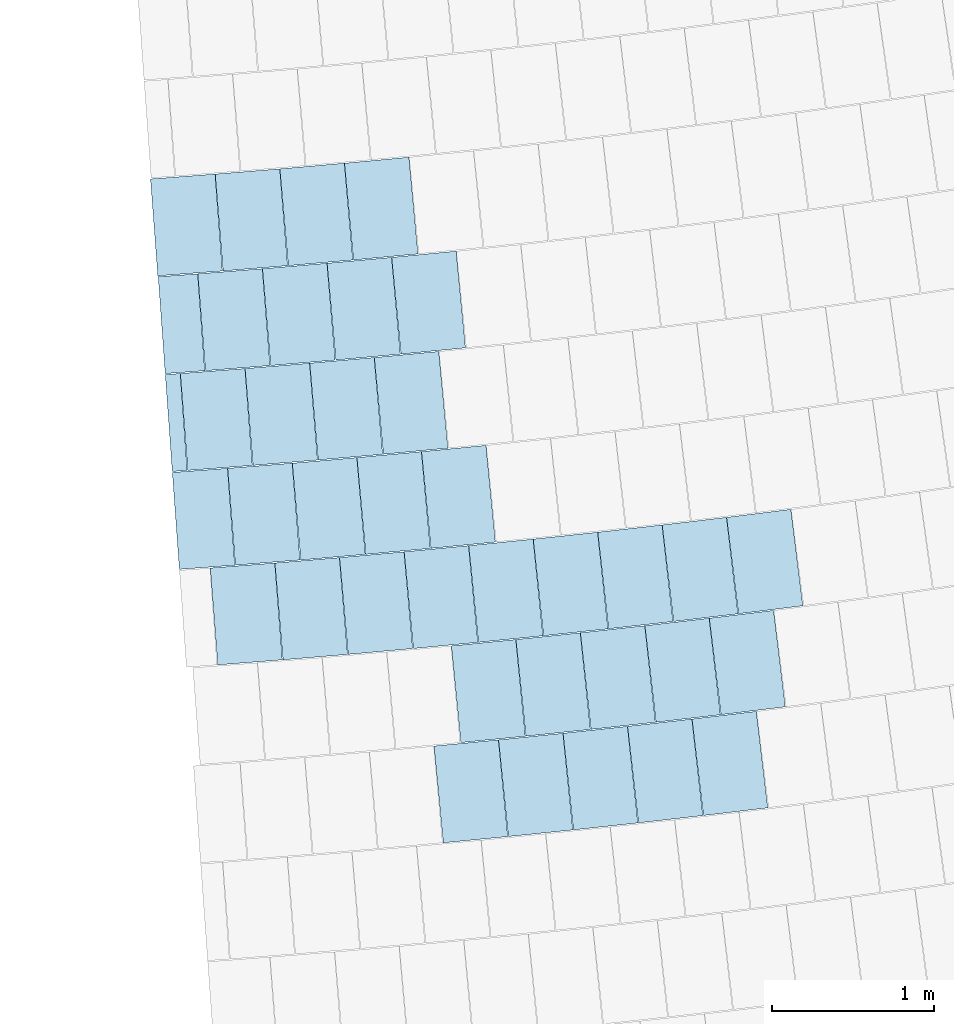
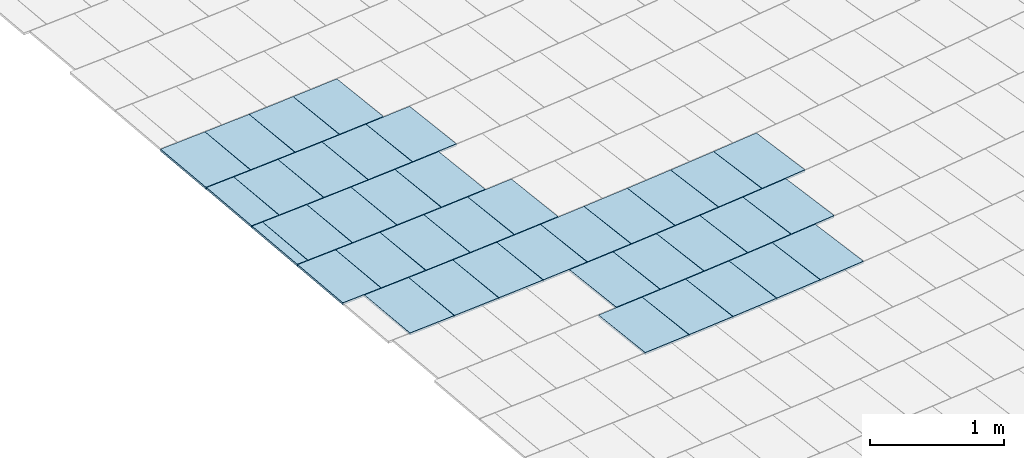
# One storey, part 40 of 438: 38 slabs.
"""IFC2X3 building model written with IfcOpenShell, lengths in millimetres."""

import ifcopenshell
import ifcopenshell.guid

model = None  # the IFC model being written
_history = None  # IfcOwnerHistory: only IFC2X3 demands one
_inside = {}  # id of a spatial element -> (the spatial element, [elements in it])
_under = {}  # id of a project, library or spatial element -> (it, [spatial elements below it])
_declared = {}  # id of a project -> (the project, [libraries it declares])
_typed = {}  # id of a type object -> (the type object, [elements of that type])
_made_of = {}  # id of a material, layer set ... -> (it, [elements and type objects made of it])


def new_model(schema):
    """Start an empty IFC model of exactly this schema.

    Asked for "IFC4X3", IfcOpenShell would pick the latest addendum, in which some entities
    have other attributes; the version numbers below select the first issue.
    IFC2X3 requires an IfcOwnerHistory on every rooted entity: one is made here for all.
    """
    global model, _history
    if schema == "IFC4X3":
        model = ifcopenshell.file(schema_version=(4, 3, 0, 0))
    else:
        model = ifcopenshell.file(schema=schema)
    _inside.clear()
    _under.clear()
    _declared.clear()
    _typed.clear()
    _made_of.clear()
    _history = None
    if model.schema == "IFC2X3":
        org = make("IfcOrganization", Name="unknown")
        user = make(
            "IfcPersonAndOrganization",
            ThePerson=make("IfcPerson", FamilyName="unknown"),
            TheOrganization=org,
        )
        app = make(
            "IfcApplication",
            ApplicationDeveloper=org,
            Version="unknown",
            ApplicationFullName="unknown",
            ApplicationIdentifier="unknown",
        )
        _history = make(
            "IfcOwnerHistory",
            OwningUser=user,
            OwningApplication=app,
            ChangeAction="ADDED",
            CreationDate=0,
        )
    return model


def make(cls, **values):
    """One entity of the class cls with the attributes given. An attribute that is None is left unset."""
    return model.create_entity(
        cls, **{name: value for name, value in values.items() if value is not None}
    )


def entity(cls, *values):
    """Any entity or typed value of the class cls, its attributes in the order of the schema. None: left unset."""
    e = model.create_entity(cls)
    for i, value in enumerate(values):
        if value is not None:
            e[i] = value
    return e


def rooted(cls, **values):
    """An entity with a GlobalId (a new one), such as an element, a storey or a relation."""
    return make(cls, GlobalId=ifcopenshell.guid.new(), OwnerHistory=_history, **values)


def si_unit(unit_type, name, prefix=None):
    """IfcSIUnit, for example si_unit("LENGTHUNIT", "METRE", prefix="MILLI")."""
    return make("IfcSIUnit", UnitType=unit_type, Prefix=prefix, Name=name)


def converted_unit(unit_type, name, factor, base, dimensions=None, offset=None):
    """IfcConversionBasedUnit, such as the inch: factor (a typed value) times the base unit."""
    return make(
        "IfcConversionBasedUnit"
        if offset is None
        else "IfcConversionBasedUnitWithOffset",
        ConversionOffset=offset,
        Dimensions=None
        if dimensions is None
        else entity("IfcDimensionalExponents", *dimensions),
        UnitType=unit_type,
        Name=name,
        ConversionFactor=make(
            "IfcMeasureWithUnit", ValueComponent=factor, UnitComponent=base
        ),
    )


def derived_unit(unit_type, elements):
    """IfcDerivedUnit: a product of units, each with its exponent."""
    return make(
        "IfcDerivedUnit",
        Elements=[
            make("IfcDerivedUnitElement", Unit=unit, Exponent=power)
            for unit, power in elements
        ],
        UnitType=unit_type,
    )


def assignment(units):
    """IfcUnitAssignment: the units of a project."""
    return None if units is None else make("IfcUnitAssignment", Units=units)


def point(xyz):
    """IfcCartesianPoint."""
    return None if xyz is None else make("IfcCartesianPoint", Coordinates=xyz)


def direction(xyz):
    """IfcDirection."""
    return None if xyz is None else make("IfcDirection", DirectionRatios=xyz)


def frame(location, z_axis=None, x_axis=None):
    """IfcAxis2Placement3D, a coordinate frame: its origin and axes. An axis left out is left unset."""
    return make(
        "IfcAxis2Placement3D",
        Location=point(location),
        Axis=direction(z_axis),
        RefDirection=direction(x_axis),
    )


def frame_2d(location, x_axis=None):
    """IfcAxis2Placement2D, a coordinate frame in the plane: its origin and x axis."""
    return make(
        "IfcAxis2Placement2D", Location=point(location), RefDirection=direction(x_axis)
    )


def origin():
    """The frame at (0, 0, 0) with its axes left unset."""
    return frame((0.0, 0.0, 0.0))


def origin_2d_with_axis():
    """The frame at (0, 0) in the plane with the x axis (1, 0) written out."""
    return frame_2d((0.0, 0.0), x_axis=(1.0, 0.0))


def place(relative_to, where):
    """IfcLocalPlacement: puts the frame where relative to a parent placement (None: the world)."""
    return make(
        "IfcLocalPlacement", PlacementRelTo=relative_to, RelativePlacement=where
    )


def context(
    kind, dimensions, precision=None, world=None, true_north=None, identifier=None
):
    """IfcGeometricRepresentationContext, for example the 3D "Model" context."""
    return make(
        "IfcGeometricRepresentationContext",
        ContextIdentifier=identifier,
        ContextType=kind,
        CoordinateSpaceDimension=dimensions,
        Precision=precision,
        WorldCoordinateSystem=world,
        TrueNorth=true_north,
    )


def subcontext(parent, identifier, kind, view, scale=None):
    """IfcGeometricRepresentationSubContext, for example "Body" below "Model"."""
    return make(
        "IfcGeometricRepresentationSubContext",
        ContextIdentifier=identifier,
        ContextType=kind,
        ParentContext=parent,
        TargetScale=scale,
        TargetView=view,
    )


def project(units=None, contexts=None):
    """IfcProject with its units and contexts."""
    return rooted(
        "IfcProject",
        Name="project",
        RepresentationContexts=contexts,
        UnitsInContext=assignment(units),
    )


def spatial(cls, under=None, at=None, **own):
    """A site, building, storey or space (cls), placed at a placement, below another one or the project."""
    s = rooted(cls, ObjectPlacement=at, **own)
    if under is not None:
        _under.setdefault(under.id(), (under, []))[1].append(s)
    return s


def polyline(points):
    """IfcPolyline through the points."""
    return make("IfcPolyline", Points=[point(p) for p in points])


def profile(cls, at=None, kind="AREA", **sizes):
    """A parametric profile (cls). Its sizes go by their IFC names, for example OverallWidth=200.0."""
    return make(cls, ProfileType=kind, Position=at, **sizes)


def rectangle(**sizes):
    """IfcRectangleProfileDef."""
    return profile("IfcRectangleProfileDef", **sizes)


def outline(outer, holes=None, kind="AREA"):
    """IfcArbitraryClosedProfileDef: a profile drawn as a closed curve; with holes, ...WithVoids."""
    if holes is None:
        return make("IfcArbitraryClosedProfileDef", ProfileType=kind, OuterCurve=outer)
    return make(
        "IfcArbitraryProfileDefWithVoids",
        ProfileType=kind,
        OuterCurve=outer,
        InnerCurves=holes,
    )


def extrude(swept, where, along, depth):
    """IfcExtrudedAreaSolid: the profile swept, set in the frame where, extruded along a direction by depth."""
    return make(
        "IfcExtrudedAreaSolid",
        SweptArea=swept,
        Position=where,
        ExtrudedDirection=direction(along),
        Depth=depth,
    )


def shape(context_of_items, identifier, shape_type, items):
    """IfcShapeRepresentation: the items that make up one representation, for example the "Body"."""
    return make(
        "IfcShapeRepresentation",
        ContextOfItems=context_of_items,
        RepresentationIdentifier=identifier,
        RepresentationType=shape_type,
        Items=items,
    )


def material(Name=None, Category=None):
    """IfcMaterial."""
    return make("IfcMaterial", Name=Name, Category=Category)


def layer(
    of_material, thickness, ventilated=None, Name=None, Category=None, Priority=None
):
    """IfcMaterialLayer: one layer of a wall or slab, of a material (None: an air gap)."""
    return make(
        "IfcMaterialLayer",
        Material=of_material,
        LayerThickness=thickness,
        IsVentilated=ventilated,
        Name=Name,
        Category=Category,
        Priority=Priority,
    )


def layer_set(layers, Name=None):
    """IfcMaterialLayerSet."""
    return make("IfcMaterialLayerSet", MaterialLayers=layers, LayerSetName=Name)


def layer_usage(for_layer_set, set_direction, sense, offset, extent=None):
    """IfcMaterialLayerSetUsage: how a layer set lies in its element."""
    return make(
        "IfcMaterialLayerSetUsage",
        ForLayerSet=for_layer_set,
        LayerSetDirection=set_direction,
        DirectionSense=sense,
        OffsetFromReferenceLine=offset,
        ReferenceExtent=extent,
    )


def made_of(thing, what):
    """Note that an element or type object is made of a material, layer set ...; save() writes the relation."""
    if what is not None:
        _made_of.setdefault(what.id(), (what, []))[1].append(thing)
    return thing


def type_object(cls, material=None, **own):
    """A type object (cls), such as IfcWallType, which elements share."""
    return made_of(rooted(cls, **own), material)


def element(
    cls,
    number,
    at=None,
    inside=None,
    cuts=None,
    type_object=None,
    material=None,
    context=None,
    identifier="Body",
    shape_type=None,
    held_by="IfcProductDefinitionShape",
    body=None,
    shapes=None,
    **own,
):
    """One element of the class cls, such as IfcWall. Its Tag is "e" and its number.

    at: its placement. inside: the storey or other place that contains it. cuts: it is an
    opening in that element (IfcRelVoidsElement). A single representation is given by context,
    identifier, shape_type and body (its items); several are given by shapes. held_by: the class
    of the entity that holds the representations. save() writes the other relations.
    """
    e = rooted(cls, Tag="e%d" % number, ObjectPlacement=at, **own)
    if body is not None:
        shapes = [shape(context, identifier, shape_type, body)]
    if shapes is not None:
        e.Representation = make(held_by, Representations=shapes)
    if inside is not None:
        _inside.setdefault(inside.id(), (inside, []))[1].append(e)
    if cuts is not None:
        rooted(
            "IfcRelVoidsElement", RelatingBuildingElement=cuts, RelatedOpeningElement=e
        )
    if type_object is not None:
        _typed.setdefault(type_object.id(), (type_object, []))[1].append(e)
    return made_of(e, material)


def aggregate(whole, parts):
    """IfcRelAggregates: a whole, such as a stair, and the parts it consists of."""
    return rooted("IfcRelAggregates", RelatingObject=whole, RelatedObjects=parts)


def save(model, path):
    """Write the relations noted so far, then the file.

    IfcRelAggregates (storeys below a building ...), IfcRelContainedInSpatialStructure (elements
    in a storey), IfcRelDefinesByType, IfcRelAssociatesMaterial and IfcRelDeclares: one each for
    every whole, place, type object, material and project.
    """
    for whole, parts in _under.values():
        aggregate(whole, parts)
    for where, things in _inside.values():
        rooted(
            "IfcRelContainedInSpatialStructure",
            RelatedElements=things,
            RelatingStructure=where,
        )
    for kind, things in _typed.values():
        rooted("IfcRelDefinesByType", RelatedObjects=things, RelatingType=kind)
    for what, things in _made_of.values():
        rooted("IfcRelAssociatesMaterial", RelatedObjects=things, RelatingMaterial=what)
    for by, libraries in _declared.values():
        rooted("IfcRelDeclares", RelatingContext=by, RelatedDefinitions=libraries)
    model.write(path)


model = new_model("IFC2X3")

# Units and contexts
model_context = context("Model", 3, precision=0.01, world=origin(), true_north=direction((6.123031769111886e-17, 1.0)))
body_context = subcontext(model_context, "Body", "Model", "MODEL_VIEW")
ifc_project = project(units=[si_unit("LENGTHUNIT", "METRE", prefix="MILLI"), si_unit("AREAUNIT", "SQUARE_METRE"), si_unit("VOLUMEUNIT", "CUBIC_METRE"), converted_unit("PLANEANGLEUNIT", "DEGREE", entity("IfcRatioMeasure", 0.017453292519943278), si_unit("PLANEANGLEUNIT", "RADIAN"), dimensions=[0, 0, 0, 0, 0, 0, 0]), si_unit("MASSUNIT", "GRAM", prefix="KILO"), derived_unit("MASSDENSITYUNIT", [(si_unit("MASSUNIT", "GRAM", prefix="KILO"), 1), (si_unit("LENGTHUNIT", "METRE"), -3)]), derived_unit("MOMENTOFINERTIAUNIT", [(si_unit("LENGTHUNIT", "METRE"), 4)]), si_unit("TIMEUNIT", "SECOND"), si_unit("FREQUENCYUNIT", "HERTZ"), si_unit("THERMODYNAMICTEMPERATUREUNIT", "DEGREE_CELSIUS"), derived_unit("THERMALTRANSMITTANCEUNIT", [(si_unit("MASSUNIT", "GRAM", prefix="KILO"), 1), (si_unit("THERMODYNAMICTEMPERATUREUNIT", "KELVIN"), -1), (si_unit("TIMEUNIT", "SECOND"), -3)]), derived_unit("THERMALCONDUCTANCEUNIT", [(si_unit("MASSUNIT", "GRAM", prefix="KILO"), 1), (si_unit("LENGTHUNIT", "METRE"), 1), (si_unit("THERMODYNAMICTEMPERATUREUNIT", "KELVIN"), -1), (si_unit("TIMEUNIT", "SECOND"), -3)]), derived_unit("VOLUMETRICFLOWRATEUNIT", [(si_unit("LENGTHUNIT", "METRE"), 3), (si_unit("TIMEUNIT", "SECOND"), -1)]), derived_unit("MASSFLOWRATEUNIT", [(si_unit("MASSUNIT", "GRAM", prefix="KILO"), 1), (si_unit("TIMEUNIT", "SECOND"), -1)]), derived_unit("ROTATIONALFREQUENCYUNIT", [(si_unit("TIMEUNIT", "SECOND"), -1)]), si_unit("ELECTRICCURRENTUNIT", "AMPERE"), si_unit("ELECTRICVOLTAGEUNIT", "VOLT"), si_unit("POWERUNIT", "WATT"), converted_unit("FORCEUNIT", "KIP", entity("IfcRatioMeasure", 2.088543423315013e-05), si_unit("FORCEUNIT", "NEWTON"), dimensions=[1, 1, -2, 0, 0, 0, 0]), si_unit("ILLUMINANCEUNIT", "LUX"), si_unit("LUMINOUSFLUXUNIT", "LUMEN"), si_unit("LUMINOUSINTENSITYUNIT", "CANDELA"), derived_unit("USERDEFINED", [(si_unit("MASSUNIT", "GRAM", prefix="KILO"), -1), (si_unit("LENGTHUNIT", "METRE"), -2), (si_unit("TIMEUNIT", "SECOND"), 3), (si_unit("LUMINOUSFLUXUNIT", "LUMEN"), 1)]), derived_unit("USERDEFINED", [(si_unit("MASSUNIT", "GRAM", prefix="KILO"), 1), (si_unit("LENGTHUNIT", "METRE"), 3), (si_unit("TIMEUNIT", "SECOND"), -3), (si_unit("ELECTRICCURRENTUNIT", "AMPERE"), -2)]), derived_unit("USERDEFINED", [(si_unit("LENGTHUNIT", "METRE"), 2), (si_unit("TIMEUNIT", "SECOND"), -2)]), derived_unit("SOUNDPOWERUNIT", [(si_unit("MASSUNIT", "GRAM", prefix="KILO"), 1), (si_unit("LENGTHUNIT", "METRE"), 2), (si_unit("TIMEUNIT", "SECOND"), -3)]), derived_unit("SOUNDPRESSUREUNIT", [(si_unit("MASSUNIT", "GRAM", prefix="KILO"), 1), (si_unit("LENGTHUNIT", "METRE"), -1), (si_unit("TIMEUNIT", "SECOND"), -2)]), derived_unit("LINEARVELOCITYUNIT", [(si_unit("LENGTHUNIT", "METRE"), 1), (si_unit("TIMEUNIT", "SECOND"), -1)]), si_unit("PRESSUREUNIT", "PASCAL"), derived_unit("USERDEFINED", [(si_unit("LENGTHUNIT", "METRE"), -2), (si_unit("MASSUNIT", "GRAM", prefix="KILO"), 1), (si_unit("TIMEUNIT", "SECOND"), -2)]), derived_unit("LINEARFORCEUNIT", [(si_unit("MASSUNIT", "GRAM", prefix="KILO"), 1), (si_unit("LENGTHUNIT", "METRE"), 1), (si_unit("TIMEUNIT", "SECOND"), -2), (si_unit("LENGTHUNIT", "METRE"), -1)]), derived_unit("PLANARFORCEUNIT", [(si_unit("MASSUNIT", "GRAM", prefix="KILO"), 1), (si_unit("LENGTHUNIT", "METRE"), 1), (si_unit("TIMEUNIT", "SECOND"), -2), (si_unit("LENGTHUNIT", "METRE"), -2)]), derived_unit("SPECIFICHEATCAPACITYUNIT", [(si_unit("LENGTHUNIT", "METRE"), 2), (si_unit("TIMEUNIT", "SECOND"), -2), (si_unit("THERMODYNAMICTEMPERATUREUNIT", "KELVIN"), -1)]), derived_unit("VAPORPERMEABILITYUNIT", [(si_unit("TIMEUNIT", "SECOND"), 1), (si_unit("LENGTHUNIT", "METRE"), -1)]), derived_unit("DYNAMICVISCOSITYUNIT", [(si_unit("MASSUNIT", "GRAM", prefix="KILO"), 1), (si_unit("LENGTHUNIT", "METRE"), -1), (si_unit("TIMEUNIT", "SECOND"), -1)]), derived_unit("THERMALEXPANSIONCOEFFICIENTUNIT", [(si_unit("THERMODYNAMICTEMPERATUREUNIT", "KELVIN"), -1)])], contexts=[model_context])

# Site, building, storey
site_placement = place(None, frame((0.0, 0.0, 0.0), z_axis=(0.0, 0.0, 1.0), x_axis=(0.8191520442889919, 0.5735764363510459, 0.0)))
site = spatial("IfcSite", under=ifc_project, at=site_placement, Name="Default", CompositionType="ELEMENT")
building_placement = place(site_placement, origin())
building = spatial("IfcBuilding", under=site, at=building_placement, CompositionType="ELEMENT")
storey_placement = place(building_placement, origin())
storey = spatial("IfcBuildingStorey", under=building, at=storey_placement, Name="PLAN", CompositionType="ELEMENT", Elevation=0.0)

# Slabs
ifc_material = material(Name="Paint-01")
ifc_layer = layer(ifc_material, 20.00000000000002)
ifc_layer_set = layer_set([ifc_layer], Name="Floor:Slab-179:1000")
ifc_layer_usage = layer_usage(ifc_layer_set, "AXIS3", "POSITIVE", 0.0)
slab_type = type_object("IfcSlabType", Name="Floor:Slab-179:1000", PredefinedType="FLOOR", material=ifc_layer_set)
slab_1_placement = place(storey_placement, origin())
element("IfcSlab", 1, at=slab_1_placement, inside=storey, type_object=slab_type, material=ifc_layer_usage, Name="Floor:Slab-179:1000", ObjectType="Floor:Slab-179:1000", PredefinedType="FLOOR", context=body_context, shape_type="SweptSolid", body=[
    extrude(outline(polyline([(-300.00000106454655, -200.00000294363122), (299.99999893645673, -200.00000294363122), (300.00000106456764, 200.00000294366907), (-299.9999989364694, 200.00000294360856), (-300.00000106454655, -200.00000294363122)])), frame((-74983.69937970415, -130020.72492645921, 20.0), z_axis=(0.0, 0.0, -1.0), x_axis=(-0.4875389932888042, -0.8731012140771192, 0.0)), (0.0, 0.0, 1.0), 20.00000000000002),
])
slab_2_placement = place(storey_placement, origin())
element("IfcSlab", 2, at=slab_2_placement, inside=storey, type_object=slab_type, material=ifc_layer_usage, Name="Floor:Slab-179:1000", ObjectType="Floor:Slab-179:1000", PredefinedType="FLOOR", context=body_context, shape_type="SweptSolid", body=[
    extrude(outline(polyline([(-300.0000010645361, -200.0000029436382), (299.99999893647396, -200.00000294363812), (300.0000010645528, 200.00000294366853), (-299.99999893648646, 200.00000294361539), (-300.0000010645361, -200.0000029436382)])), frame((-74632.42849024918, -130215.57456155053, 20.0), z_axis=(0.0, 0.0, -1.0), x_axis=(-0.4825981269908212, -0.8758419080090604, 0.0)), (0.0, 0.0, 1.0), 20.00000000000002),
])
slab_3_placement = place(storey_placement, origin())
element("IfcSlab", 3, at=slab_3_placement, inside=storey, type_object=slab_type, material=ifc_layer_usage, Name="Floor:Slab-179:1000", ObjectType="Floor:Slab-179:1000", PredefinedType="FLOOR", context=body_context, shape_type="SweptSolid", body=[
    extrude(outline(polyline([(-300.0000010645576, -200.00000294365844), (299.9999989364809, -200.00000294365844), (300.0000010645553, 200.0000029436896), (-299.9999989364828, 200.00000294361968), (-300.0000010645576, -200.00000294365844)])), frame((-75333.86374787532, -129823.89369586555, 20.0), z_axis=(0.0, 0.0, -1.0), x_axis=(-0.4924642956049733, -0.8703326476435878, 0.0)), (0.0, 0.0, 1.0), 20.00000000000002),
])
slab_4_placement = place(storey_placement, origin())
element("IfcSlab", 4, at=slab_4_placement, inside=storey, type_object=slab_type, material=ifc_layer_usage, Name="Floor:Slab-179:1000", ObjectType="Floor:Slab-179:1000", PredefinedType="FLOOR", context=body_context, shape_type="SweptSolid", body=[
    extrude(outline(polyline([(-300.0000010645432, -200.00000294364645), (299.9999989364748, -200.00000294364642), (300.00000106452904, 200.00000294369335), (-299.9999989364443, 200.00000294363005), (-300.0000010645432, -200.00000294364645)])), frame((-73926.61203772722, -130599.30422750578, 20.0), z_axis=(0.0, 0.0, -1.0), x_axis=(-0.4726703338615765, -0.881239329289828, 0.0)), (0.0, 0.0, 1.0), 20.00000000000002),
])
slab_5_placement = place(storey_placement, origin())
element("IfcSlab", 5, at=slab_5_placement, inside=storey, type_object=slab_type, material=ifc_layer_usage, Name="Floor:Slab-179:1000", ObjectType="Floor:Slab-179:1000", PredefinedType="FLOOR", context=body_context, shape_type="SweptSolid", body=[
    extrude(outline(polyline([(-300.0000010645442, -200.00000294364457), (299.9999989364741, -200.00000294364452), (300.0000010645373, 200.00000294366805), (-299.99999893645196, 200.00000294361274), (-300.0000010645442, -200.00000294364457)])), frame((-74280.06229332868, -130408.43638084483, 20.0), z_axis=(0.0, 0.0, -1.0), x_axis=(-0.47764185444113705, -0.8785546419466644, 0.0)), (0.0, 0.0, 1.0), 20.00000000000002),
])
slab_6_placement = place(storey_placement, origin())
element("IfcSlab", 6, at=slab_6_placement, inside=storey, type_object=slab_type, material=ifc_layer_usage, Name="Floor:Slab-179:1000", ObjectType="Floor:Slab-179:1000", PredefinedType="FLOOR", context=body_context, shape_type="SweptSolid", body=[
    extrude(outline(polyline([(-300.0000010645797, -200.00000294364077), (299.99999893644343, -200.0000029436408), (300.0000010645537, 200.00000294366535), (-299.9999989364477, 200.00000294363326), (-300.0000010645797, -200.00000294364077)])), frame((-74890.89375487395, -129379.17891397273, 20.0), z_axis=(0.0, 0.0, -1.0), x_axis=(-0.49040685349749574, -0.8714936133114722, 0.0)), (0.0, 0.0, 1.0), 20.000000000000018),
])
slab_7_placement = place(storey_placement, origin())
element("IfcSlab", 7, at=slab_7_placement, inside=storey, type_object=slab_type, material=ifc_layer_usage, Name="Floor:Slab-179:1000", ObjectType="Floor:Slab-179:1000", PredefinedType="FLOOR", context=body_context, shape_type="SweptSolid", body=[
    extrude(outline(polyline([(-300.0000010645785, -200.000002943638), (299.99999893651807, -200.000002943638), (300.00000106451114, 200.0000029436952), (-299.99999893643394, 200.0000029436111), (-300.0000010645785, -200.000002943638)])), frame((-74540.24786956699, -129575.18094655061, 20.0), z_axis=(0.0, 0.0, -1.0), x_axis=(-0.48543244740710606, -0.8742741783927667, 0.0)), (0.0, 0.0, 1.0), 20.00000000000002),
])
slab_8_placement = place(storey_placement, origin())
element("IfcSlab", 8, at=slab_8_placement, inside=storey, type_object=slab_type, material=ifc_layer_usage, Name="Floor:Slab-179:1000", ObjectType="Floor:Slab-179:1000", PredefinedType="FLOOR", context=body_context, shape_type="SweptSolid", body=[
    extrude(outline(polyline([(-300.00000106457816, -200.00000294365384), (299.9999989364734, -200.0000029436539), (300.0000010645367, 200.00000294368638), (-299.9999989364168, 200.000002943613), (-300.00000106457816, -200.00000294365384)])), frame((-74188.4907073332, -129769.18154571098, 20.0), z_axis=(0.0, 0.0, -1.0), x_axis=(-0.4804422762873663, -0.877026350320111, 0.0)), (0.0, 0.0, 1.0), 20.00000000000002),
])
slab_9_placement = place(storey_placement, origin())
element("IfcSlab", 9, at=slab_9_placement, inside=storey, type_object=slab_type, material=ifc_layer_usage, Name="Floor:Slab-179:1000", ObjectType="Floor:Slab-179:1000", PredefinedType="FLOOR", context=body_context, shape_type="SweptSolid", body=[
    extrude(outline(polyline([(-300.0000010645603, -200.00000294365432), (299.99999893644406, -200.00000294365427), (300.00000106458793, 200.00000294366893), (-299.99999893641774, 200.00000294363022), (-300.0000010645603, -200.00000294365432)])), frame((-73835.63369192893, -129961.17441104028, 20.0), z_axis=(0.0, 0.0, -1.0), x_axis=(-0.4754365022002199, -0.8797500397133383, 0.0)), (0.0, 0.0, 1.0), 20.00000000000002),
])
slab_10_placement = place(storey_placement, origin())
element("IfcSlab", 10, at=slab_10_placement, inside=storey, type_object=slab_type, material=ifc_layer_usage, Name="Floor:Slab-179:1000", ObjectType="Floor:Slab-179:1000", PredefinedType="FLOOR", context=body_context, shape_type="SweptSolid", body=[
    extrude(outline(polyline([(-300.0000010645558, -200.0000029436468), (299.99999893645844, -200.0000029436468), (300.0000010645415, 200.0000029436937), (-299.9999989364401, 200.00000294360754), (-300.0000010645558, -200.0000029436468)])), frame((-73481.68828283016, -130151.15330732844, 20.0), z_axis=(0.0, 0.0, -1.0), x_axis=(-0.4704152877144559, -0.8824451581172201, 0.0)), (0.0, 0.0, 1.0), 20.00000000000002),
])
slab_11_placement = place(storey_placement, origin())
element("IfcSlab", 11, at=slab_11_placement, inside=storey, type_object=slab_type, material=ifc_layer_usage, Name="Floor:Slab-179:1000", ObjectType="Floor:Slab-179:1000", PredefinedType="FLOOR", context=body_context, shape_type="SweptSolid", body=[
    extrude(outline(polyline([(-300.00000106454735, -200.0000029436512), (299.99999893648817, -200.00000294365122), (300.00000106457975, 200.0000029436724), (-299.99999893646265, 200.0000029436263), (-300.00000106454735, -200.0000029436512)])), frame((-75494.3060533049, -128336.58463987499, 20.0), z_axis=(0.0, 0.0, -1.0), x_axis=(-0.5032867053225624, -0.8641194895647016, 0.0)), (0.0, 0.0, 1.0), 20.000000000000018),
])
slab_12_placement = place(storey_placement, origin())
element("IfcSlab", 12, at=slab_12_placement, inside=storey, type_object=slab_type, material=ifc_layer_usage, Name="Floor:Slab-179:1000", ObjectType="Floor:Slab-179:1000", PredefinedType="FLOOR", context=body_context, shape_type="SweptSolid", body=[
    extrude(outline(polyline([(-300.00000106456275, -200.0000029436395), (299.9999989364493, -200.00000294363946), (300.0000010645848, 200.00000294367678), (-299.99999893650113, 200.00000294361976), (-300.00000106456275, -200.0000029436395)])), frame((-75840.86006397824, -128133.40597247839, 20.0), z_axis=(0.0, 0.0, -1.0), x_axis=(-0.5082456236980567, -0.861212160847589, 0.0)), (0.0, 0.0, 1.0), 20.00000000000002),
])
slab_13_placement = place(storey_placement, origin())
element("IfcSlab", 13, at=slab_13_placement, inside=storey, type_object=slab_type, material=ifc_layer_usage, Name="Floor:Slab-179:1000", ObjectType="Floor:Slab-179:1000", PredefinedType="FLOOR", context=body_context, shape_type="SweptSolid", body=[
    extrude(outline(polyline([(-300.0000010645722, -200.0000029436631), (299.9999989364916, -200.0000029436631), (300.0000010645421, 200.00000294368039), (-299.99999893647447, 200.00000294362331), (-300.0000010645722, -200.0000029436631)])), frame((-75146.58983272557, -128537.76784778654, 20.0), z_axis=(0.0, 0.0, -1.0), x_axis=(-0.49831115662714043, -0.8669982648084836, 0.0)), (0.0, 0.0, 1.0), 20.00000000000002),
])
slab_14_placement = place(storey_placement, origin())
element("IfcSlab", 14, at=slab_14_placement, inside=storey, type_object=slab_type, material=ifc_layer_usage, Name="Floor:Slab-179:1000", ObjectType="Floor:Slab-179:1000", PredefinedType="FLOOR", context=body_context, shape_type="SweptSolid", body=[
    extrude(outline(polyline([(-300.00000106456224, -200.00000294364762), (299.99999893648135, -200.00000294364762), (300.00000106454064, 200.00000294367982), (-299.9999989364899, 200.00000294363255), (-300.00000106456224, -200.00000294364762)])), frame((-74797.72289197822, -128736.94894842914, 20.0), z_axis=(0.0, 0.0, -1.0), x_axis=(-0.4933191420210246, -0.869848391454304, 0.0)), (0.0, 0.0, 1.0), 20.00000000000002),
])
slab_15_placement = place(storey_placement, origin())
element("IfcSlab", 15, at=slab_15_placement, inside=storey, type_object=slab_type, material=ifc_layer_usage, Name="Floor:Slab-179:1000", ObjectType="Floor:Slab-179:1000", PredefinedType="FLOOR", context=body_context, shape_type="SweptSolid", body=[
    extrude(outline(polyline([(-300.000001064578, -200.0000029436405), (299.9999989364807, -200.00000294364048), (300.0000010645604, 200.0000029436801), (-299.9999989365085, 200.00000294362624), (-300.000001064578, -200.0000029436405)])), frame((-74447.71675882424, -128934.12136017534, 20.0), z_axis=(0.0, 0.0, -1.0), x_axis=(-0.4883108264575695, -0.8726697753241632, 0.0)), (0.0, 0.0, 1.0), 20.00000000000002),
])
slab_16_placement = place(storey_placement, origin())
element("IfcSlab", 16, at=slab_16_placement, inside=storey, type_object=slab_type, material=ifc_layer_usage, Name="Floor:Slab-179:1000", ObjectType="Floor:Slab-179:1000", PredefinedType="FLOOR", context=body_context, shape_type="SweptSolid", body=[
    extrude(outline(polyline([(-300.000001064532, -200.00000294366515), (299.99999893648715, -200.00000294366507), (300.0000010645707, 200.0000029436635), (-299.9999989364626, 200.00000294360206), (-300.000001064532, -200.00000294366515)])), frame((-74096.58299866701, -129129.27856777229, 20.0), z_axis=(0.0, 0.0, -1.0), x_axis=(-0.48328637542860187, -0.8754623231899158, 0.0)), (0.0, 0.0, 1.0), 20.00000000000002),
])
slab_17_placement = place(storey_placement, origin())
element("IfcSlab", 17, at=slab_17_placement, inside=storey, type_object=slab_type, material=ifc_layer_usage, Name="Floor:Slab-179:1000", ObjectType="Floor:Slab-179:1000", PredefinedType="FLOOR", context=body_context, shape_type="SweptSolid", body=[
    extrude(outline(polyline([(-300.0000010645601, -200.00000294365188), (299.99999893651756, -200.0000029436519), (300.0000010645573, 200.000002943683), (-299.9999989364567, 200.00000294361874), (-300.0000010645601, -200.00000294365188)])), frame((-73744.3332141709, -129322.4141225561, 20.0), z_axis=(0.0, 0.0, -1.0), x_axis=(-0.4782459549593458, -0.8782259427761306, 0.0)), (0.0, 0.0, 1.0), 20.000000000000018),
])
slab_18_placement = place(storey_placement, origin())
element("IfcSlab", 18, at=slab_18_placement, inside=storey, type_object=slab_type, material=ifc_layer_usage, Name="Floor:Slab-179:1000", ObjectType="Floor:Slab-179:1000", PredefinedType="FLOOR", context=body_context, shape_type="SweptSolid", body=[
    extrude(outline(polyline([(-300.0000010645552, -200.0000029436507), (299.99999893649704, -200.0000029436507), (300.00000106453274, 200.0000029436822), (-299.999998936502, 200.00000294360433), (-300.0000010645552, -200.0000029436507)])), frame((-73036.5321668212, -129702.59481325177, 20.0), z_axis=(0.0, 0.0, -1.0), x_axis=(-0.46811787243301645, -0.8836660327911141, 0.0)), (0.0, 0.0, 1.0), 20.00000000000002),
])
slab_19_placement = place(storey_placement, origin())
element("IfcSlab", 19, at=slab_19_placement, inside=storey, type_object=slab_type, material=ifc_layer_usage, Name="Floor:Slab-179:1000", ObjectType="Floor:Slab-179:1000", PredefinedType="FLOOR", context=body_context, shape_type="SweptSolid", body=[
    extrude(outline(polyline([(-300.00000106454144, -200.00000294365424), (299.99999893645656, -200.00000294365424), (300.00000106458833, 200.0000029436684), (-299.99999893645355, 200.00000294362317), (-300.00000106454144, -200.00000294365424)])), frame((-73390.97904487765, -129513.52164266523, 20.0), z_axis=(0.0, 0.0, -1.0), x_axis=(-0.47318973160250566, -0.8809605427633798, 0.0)), (0.0, 0.0, 1.0), 20.00000000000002),
])
slab_20_placement = place(storey_placement, origin())
element("IfcSlab", 20, at=slab_20_placement, inside=storey, type_object=slab_type, material=ifc_layer_usage, Name="Floor:Slab-179:1000", ObjectType="Floor:Slab-179:1000", PredefinedType="FLOOR", context=body_context, shape_type="SweptSolid", body=[
    extrude(outline(polyline([(-300.0000009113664, -171.21051064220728), (299.9999990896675, -171.21051064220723), (300.00000091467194, 171.82722983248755), (-299.9999990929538, 170.5937914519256), (-300.0000009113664, -171.21051064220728)])), frame((-75720.50276283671, -127501.54736377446, 20.0), z_axis=(0.0, 0.0, -1.0), x_axis=(-0.5113038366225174, -0.8594000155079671, 0.0)), (0.0, 0.0, 1.0), 20.00000000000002),
])
slab_21_placement = place(storey_placement, origin())
element("IfcSlab", 21, at=slab_21_placement, inside=storey, type_object=slab_type, material=ifc_layer_usage, Name="Floor:Slab-179:1000", ObjectType="Floor:Slab-179:1000", PredefinedType="FLOOR", context=body_context, shape_type="SweptSolid", body=[
    extrude(outline(polyline([(-300.00000106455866, -200.00000294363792), (299.9999989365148, -200.00000294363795), (300.0000010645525, 200.00000294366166), (-299.99999893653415, 200.00000294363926), (-300.00000106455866, -200.00000294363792)])), frame((-75399.39674015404, -127691.23545778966, 20.0), z_axis=(0.0, 0.0, -1.0), x_axis=(-0.506311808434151, -0.8623504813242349, 0.0)), (0.0, 0.0, 1.0), 20.00000000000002),
])
slab_22_placement = place(storey_placement, origin())
element("IfcSlab", 22, at=slab_22_placement, inside=storey, type_object=slab_type, material=ifc_layer_usage, Name="Floor:Slab-179:1000", ObjectType="Floor:Slab-179:1000", PredefinedType="FLOOR", context=body_context, shape_type="SweptSolid", body=[
    extrude(rectangle(XDim=599.9993205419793, YDim=399.99955291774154, at=frame_2d((7.503331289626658e-12, -4.334310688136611e-12), x_axis=(1.0, 0.0))), frame((-75052.12903045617, -127894.12121937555, 20.0), z_axis=(0.0, 0.0, -1.0), x_axis=(-0.49999999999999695, -0.8660254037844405, 0.0)), (0.0, 0.0, 1.0), 20.000000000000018),
])
slab_23_placement = place(storey_placement, origin())
element("IfcSlab", 23, at=slab_23_placement, inside=storey, type_object=slab_type, material=ifc_layer_usage, Name="Floor:Slab-179:1000", ObjectType="Floor:Slab-179:1000", PredefinedType="FLOOR", context=body_context, shape_type="SweptSolid", body=[
    extrude(outline(polyline([(-300.0000010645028, -200.00000294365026), (299.9999989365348, -200.00000294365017), (300.00000106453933, 200.00000294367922), (-299.9999989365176, 200.00000294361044), (-300.0000010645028, -200.00000294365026)])), frame((-74704.17450003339, -128094.0184492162, 20.0), z_axis=(0.0, 0.0, -1.0), x_axis=(-0.49627684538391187, -0.8681643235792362, 0.0)), (0.0, 0.0, 1.0), 20.00000000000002),
])
slab_24_placement = place(storey_placement, origin())
element("IfcSlab", 24, at=slab_24_placement, inside=storey, type_object=slab_type, material=ifc_layer_usage, Name="Floor:Slab-179:1000", ObjectType="Floor:Slab-179:1000", PredefinedType="FLOOR", context=body_context, shape_type="SweptSolid", body=[
    extrude(outline(polyline([(-300.0000010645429, -200.00000294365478), (299.99999893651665, -200.0000029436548), (300.00000106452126, 200.00000294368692), (-299.9999989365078, 200.00000294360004), (-300.0000010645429, -200.00000294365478)])), frame((-74354.82335006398, -128292.37962507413, 20.0), z_axis=(0.0, 0.0, -1.0), x_axis=(-0.49123424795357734, -0.8710275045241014, 0.0)), (0.0, 0.0, 1.0), 20.000000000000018),
])
slab_25_placement = place(storey_placement, origin())
element("IfcSlab", 25, at=slab_25_placement, inside=storey, type_object=slab_type, material=ifc_layer_usage, Name="Floor:Slab-179:1000", ObjectType="Floor:Slab-179:1000", PredefinedType="FLOOR", context=body_context, shape_type="SweptSolid", body=[
    extrude(outline(polyline([(-300.0, -46.36537780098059), (300.0, -46.365377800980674), (300.0, 45.896782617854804), (-300.0, 46.833972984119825), (-300.0, -46.36537780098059)])), frame((-75517.44155590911, -126918.50382653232, 20.0), z_axis=(0.0, 0.0, -1.0), x_axis=(-0.5144095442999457, -0.8575446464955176, 0.0)), (0.0, 0.0, 1.0), 20.000000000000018),
])
slab_26_placement = place(storey_placement, origin())
element("IfcSlab", 26, at=slab_26_placement, inside=storey, type_object=slab_type, material=ifc_layer_usage, Name="Floor:Slab-179:1000", ObjectType="Floor:Slab-179:1000", PredefinedType="FLOOR", context=body_context, shape_type="SweptSolid", body=[
    extrude(rectangle(XDim=599.9997933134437, YDim=399.9998680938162, at=origin_2d_with_axis()), frame((-74610.36970968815, -127450.10129061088, 20.0), z_axis=(0.0, 0.0, -1.0), x_axis=(-0.5000000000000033, -0.8660254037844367, 0.0)), (0.0, 0.0, 1.0), 20.00000000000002),
])
slab_27_placement = place(storey_placement, origin())
element("IfcSlab", 27, at=slab_27_placement, inside=storey, type_object=slab_type, material=ifc_layer_usage, Name="Floor:Slab-179:1000", ObjectType="Floor:Slab-179:1000", PredefinedType="FLOOR", context=body_context, shape_type="SweptSolid", body=[
    extrude(outline(polyline([(-300.00000106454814, -200.00000294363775), (299.9999989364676, -200.00000294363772), (300.00000106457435, 200.00000294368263), (-299.9999989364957, 200.00000294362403), (-300.00000106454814, -200.00000294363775)])), frame((-74957.74404057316, -127248.76443606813, 20.0), z_axis=(0.0, 0.0, -1.0), x_axis=(-0.5043411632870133, -0.8635044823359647, 0.0)), (0.0, 0.0, 1.0), 20.00000000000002),
])
slab_28_placement = place(storey_placement, origin())
element("IfcSlab", 28, at=slab_28_placement, inside=storey, type_object=slab_type, material=ifc_layer_usage, Name="Floor:Slab-179:1000", ObjectType="Floor:Slab-179:1000", PredefinedType="FLOOR", context=body_context, shape_type="SweptSolid", body=[
    extrude(outline(polyline([(-300.00000106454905, -200.00000294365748), (299.9999989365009, -200.00000294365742), (300.00000106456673, 200.0000029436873), (-299.9999989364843, 200.00000294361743), (-300.00000106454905, -200.00000294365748)])), frame((-75304.06567211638, -127045.12982858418, 20.0), z_axis=(0.0, 0.0, -1.0), x_axis=(-0.5093840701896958, -0.8605392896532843, 0.0)), (0.0, 0.0, 1.0), 20.00000000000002),
])
slab_29_placement = place(storey_placement, origin())
element("IfcSlab", 29, at=slab_29_placement, inside=storey, type_object=slab_type, material=ifc_layer_usage, Name="Floor:Slab-179:1000", ObjectType="Floor:Slab-179:1000", PredefinedType="FLOOR", context=body_context, shape_type="SweptSolid", body=[
    extrude(outline(polyline([(-300.00000106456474, -200.00000294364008), (299.99999893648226, -200.00000294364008), (300.000001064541, 200.00000294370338), (-299.9999989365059, 200.00000294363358), (-300.00000106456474, -200.00000294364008)])), frame((-74261.5566360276, -127649.93831019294, 20.0), z_axis=(0.0, 0.0, -1.0), x_axis=(-0.49420374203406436, -0.8693461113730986, 0.0)), (0.0, 0.0, 1.0), 20.00000000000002),
])
slab_30_placement = place(storey_placement, origin())
element("IfcSlab", 30, at=slab_30_placement, inside=storey, type_object=slab_type, material=ifc_layer_usage, Name="Floor:Slab-179:1000", ObjectType="Floor:Slab-179:1000", PredefinedType="FLOOR", context=body_context, shape_type="SweptSolid", body=[
    extrude(outline(polyline([(-300.000001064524, -200.00000294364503), (299.9999989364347, -200.00000294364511), (300.00000106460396, 200.00000294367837), (-299.9999989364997, 200.00000294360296), (-300.000001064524, -200.00000294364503)])), frame((-74862.69885577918, -126603.13897187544, 20.0), z_axis=(0.0, 0.0, -1.0), x_axis=(-0.5074274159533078, -0.8616945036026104, 0.0)), (0.0, 0.0, 1.0), 20.000000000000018),
])
slab_31_placement = place(storey_placement, origin())
element("IfcSlab", 31, at=slab_31_placement, inside=storey, type_object=slab_type, material=ifc_layer_usage, Name="Floor:Slab-179:1000", ObjectType="Floor:Slab-179:1000", PredefinedType="FLOOR", context=body_context, shape_type="SweptSolid", body=[
    extrude(outline(polyline([(-300.0000010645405, -200.00000294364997), (299.99999893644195, -200.00000294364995), (300.0000010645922, 200.00000294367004), (-299.9999989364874, 200.00000294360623), (-300.0000010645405, -200.00000294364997)])), frame((-74515.89662042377, -126805.9849721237, 20.0), z_axis=(0.0, 0.0, -1.0), x_axis=(-0.5023326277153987, -0.8646744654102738, 0.0)), (0.0, 0.0, 1.0), 20.00000000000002),
])
slab_32_placement = place(storey_placement, origin())
element("IfcSlab", 32, at=slab_32_placement, inside=storey, type_object=slab_type, material=ifc_layer_usage, Name="Floor:Slab-179:1000", ObjectType="Floor:Slab-179:1000", PredefinedType="FLOOR", context=body_context, shape_type="SweptSolid", body=[
    extrude(outline(polyline([(-300.0000006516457, -122.39571235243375), (299.9999993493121, -122.39571235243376), (300.00000065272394, 122.59311835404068), (-299.99999935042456, 122.19830635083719), (-300.0000006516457, -122.39571235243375)])), frame((-75141.66019598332, -126438.02213597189, 20.0), z_axis=(0.0, 0.0, -1.0), x_axis=(-0.512504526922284, -0.8586845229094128, 0.0)), (0.0, 0.0, 1.0), 20.00000000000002),
])
slab_33_placement = place(storey_placement, origin())
element("IfcSlab", 33, at=slab_33_placement, inside=storey, type_object=slab_type, material=ifc_layer_usage, Name="Floor:Slab-179:1000", ObjectType="Floor:Slab-179:1000", PredefinedType="FLOOR", context=body_context, shape_type="SweptSolid", body=[
    extrude(outline(polyline([(-300.00000106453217, -200.00000294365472), (299.99999893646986, -200.00000294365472), (300.0000010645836, 200.00000294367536), (-299.9999989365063, 200.00000294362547), (-300.00000106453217, -200.00000294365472)])), frame((-73818.73064236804, -127205.51862122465, 20.0), z_axis=(0.0, 0.0, -1.0), x_axis=(-0.4920907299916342, -0.8705439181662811, 0.0)), (0.0, 0.0, 1.0), 20.000000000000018),
])
slab_34_placement = place(storey_placement, origin())
element("IfcSlab", 34, at=slab_34_placement, inside=storey, type_object=slab_type, material=ifc_layer_usage, Name="Floor:Slab-179:1000", ObjectType="Floor:Slab-179:1000", PredefinedType="FLOOR", context=body_context, shape_type="SweptSolid", body=[
    extrude(outline(polyline([(-300.0000010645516, -200.000002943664), (299.99999893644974, -200.00000294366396), (300.0000010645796, 200.00000294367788), (-299.99999893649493, 200.00000294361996), (-300.0000010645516, -200.000002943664)])), frame((-74167.90317493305, -127006.78052028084, 20.0), z_axis=(0.0, 0.0, -1.0), x_axis=(-0.49722033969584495, -0.8676243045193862, 0.0)), (0.0, 0.0, 1.0), 20.00000000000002),
])
slab_35_placement = place(storey_placement, origin())
element("IfcSlab", 35, at=slab_35_placement, inside=storey, type_object=slab_type, material=ifc_layer_usage, Name="Floor:Slab-179:1000", ObjectType="Floor:Slab-179:1000", PredefinedType="FLOOR", context=body_context, shape_type="SweptSolid", body=[
    extrude(outline(polyline([(-300.0000010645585, -200.00000294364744), (299.9999989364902, -200.00000294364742), (300.0000010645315, 200.00000294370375), (-299.99999893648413, 200.00000294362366), (-300.0000010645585, -200.00000294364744)])), frame((-74767.2201739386, -125956.73934385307, 20.0), z_axis=(0.0, 0.0, -1.0), x_axis=(-0.5105625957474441, -0.8598405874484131, 0.0)), (0.0, 0.0, 1.0), 20.00000000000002),
])
slab_36_placement = place(storey_placement, origin())
element("IfcSlab", 36, at=slab_36_placement, inside=storey, type_object=slab_type, material=ifc_layer_usage, Name="Floor:Slab-179:1000", ObjectType="Floor:Slab-179:1000", PredefinedType="FLOOR", context=body_context, shape_type="SweptSolid", body=[
    extrude(outline(polyline([(-300.0000010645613, -200.00000294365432), (299.9999989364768, -200.00000294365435), (300.000001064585, 200.00000294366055), (-299.9999989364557, 200.00000294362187), (-300.0000010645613, -200.00000294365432)])), frame((-74421.13992716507, -126160.84604170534, 20.0), z_axis=(0.0, 0.0, -1.0), x_axis=(-0.5054328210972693, -0.8628659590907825, 0.0)), (0.0, 0.0, 1.0), 20.00000000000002),
])
slab_37_placement = place(storey_placement, origin())
element("IfcSlab", 37, at=slab_37_placement, inside=storey, type_object=slab_type, material=ifc_layer_usage, Name="Floor:Slab-179:1000", ObjectType="Floor:Slab-179:1000", PredefinedType="FLOOR", context=body_context, shape_type="SweptSolid", body=[
    extrude(rectangle(XDim=599.9999674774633, YDim=399.99998420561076, at=frame_2d((-9.634959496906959e-12, 5.826450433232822e-13), x_axis=(1.0, 0.0))), frame((-74073.79765580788, -126362.99448072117, 20.0), z_axis=(0.0, 0.0, -1.0), x_axis=(-0.5000000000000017, -0.8660254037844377, 0.0)), (0.0, 0.0, 1.0), 20.00000000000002),
])
slab_38_placement = place(storey_placement, origin())
element("IfcSlab", 38, at=slab_38_placement, inside=storey, type_object=slab_type, material=ifc_layer_usage, Name="Floor:Slab-179:1000", ObjectType="Floor:Slab-179:1000", PredefinedType="FLOOR", context=body_context, shape_type="SweptSolid", body=[
    extrude(outline(polyline([(-300.0000010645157, -200.00000294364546), (299.9999989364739, -200.00000294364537), (300.0000010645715, 200.0000029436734), (-299.9999989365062, 200.00000294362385), (-300.0000010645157, -200.00000294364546)])), frame((-73725.36353349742, -126562.85824267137, 20.0), z_axis=(0.0, 0.0, -1.0), x_axis=(-0.49511967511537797, -0.8688247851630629, 0.0)), (0.0, 0.0, 1.0), 20.00000000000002),
])

save(model, "model.ifc")
